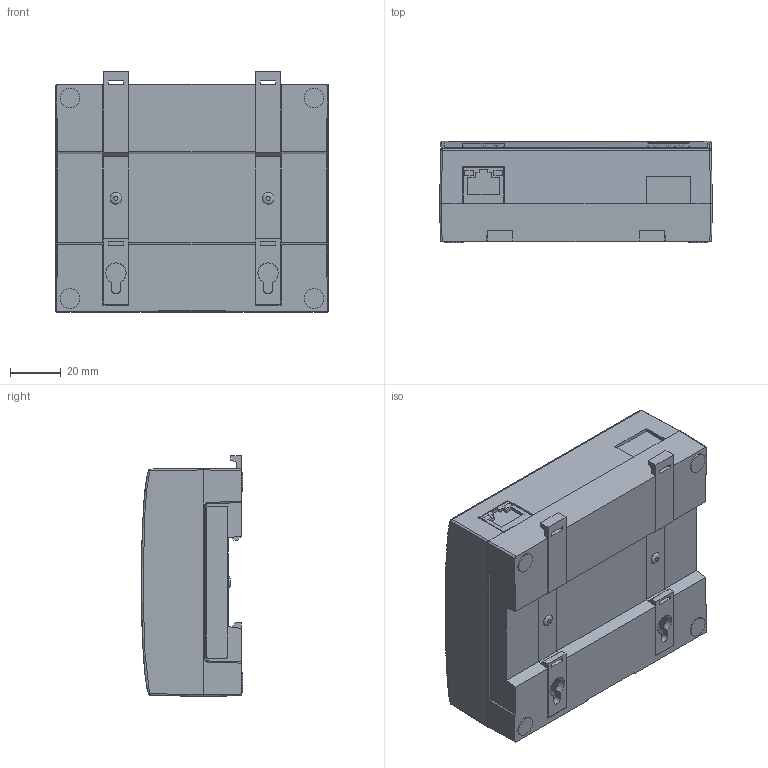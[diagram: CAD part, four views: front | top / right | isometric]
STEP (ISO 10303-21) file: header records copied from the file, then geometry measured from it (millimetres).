
FILE_DESCRIPTION(/* description */ ('STEP AP242','CAx-IF Rec.Pracs.---Representation and Presentation of Product Manufacturing Information (PMI)---4.0---2014-10-13','CAx-IF Rec.Pracs.---3D Tessellated Geometry---0.4---2014-09-14','2;1'),/* implementation_level */ '2;1');
FILE_NAME(/* name */ '6634d1125996e81fac3b0e90',/* time_stamp */ '2024-05-03T11:57:08Z',/* author */ (''),/* organization */ (''),/* preprocessor_version */ 'ST-DEVELOPER v20',/* originating_system */ ' ',/* authorisation */ ' ');
FILE_SCHEMA (('AP242_MANAGED_MODEL_BASED_3D_ENGINEERING_MIM_LF { 1 0 10303 442 1 1 4 }'));
Length unit declared in the file: metre
Products named in the file (1): Switch
Bounding box: 107.5 x 40 x 94.94 mm (x, y, z)
Volume: 349268.2 mm3; surface area: 38607.9 mm2
Topology: 1 solids, 1 shells, 1257 faces, 3301 edges, 2182 vertices
Faces by surface type: plane 1038, cylinder 126, bspline 89, sphere 4
Full cylindrical faces by diameter (mm): 0.544 x7, 0.705 x7, 0.866 x7, 0.99 x7, 1.485 x1, 1.8 x1, 2.3 x8, 7.8 x4, 9.9 x1, 10.782 x1
Entity records: 49266 total; most frequent: CARTESIAN_POINT 17092, ORIENTED_EDGE 6494, DIRECTION 5333, EDGE_CURVE 3247, LINE 2783, VECTOR 2783, VERTEX_POINT 2178, EDGE_LOOP 1447
